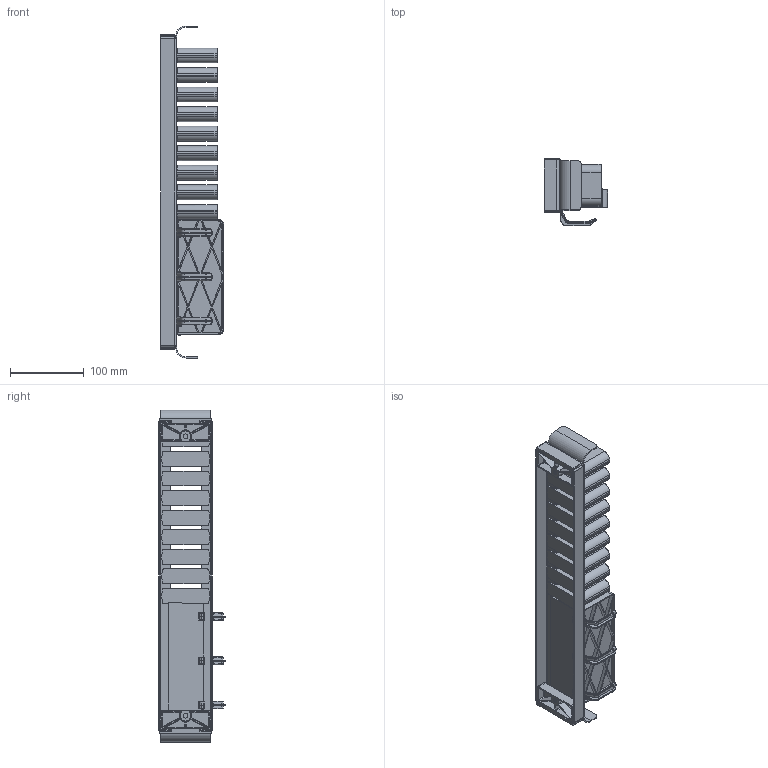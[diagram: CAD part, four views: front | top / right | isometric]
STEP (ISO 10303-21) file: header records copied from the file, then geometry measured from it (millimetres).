
FILE_DESCRIPTION((''),'2;1');
FILE_NAME('238386_SW0001','2022-12-02T09:52:24',('1ke04'),('Kesseboehmer'),'CREO PARAMETRIC BY PTC INC, 2020414','CREO PARAMETRIC BY PTC INC, 2020414','');
FILE_SCHEMA(('AUTOMOTIVE_DESIGN { 1 0 10303 214 1 1 1 1 }'));
Products named in the file (1): 238386_SW0001
Bounding box: 85.69 x 90.5 x 450 mm (x, y, z)
Volume: 402409.9 mm3; surface area: 315663.4 mm2
Topology: 1 solids, 1 shells, 2121 faces, 5287 edges, 3166 vertices
Faces by surface type: plane 821, cylinder 756, bspline 322, torus 124, sphere 62, cone 36
Entity records: 90039 total; most frequent: CARTESIAN_POINT 32079, ORIENTED_EDGE 10574, DIRECTION 8978, EDGE_CURVE 5287, VERTEX_POINT 3166, AXIS2_PLACEMENT_3D 3044, VECTOR 2887, LINE 2887
